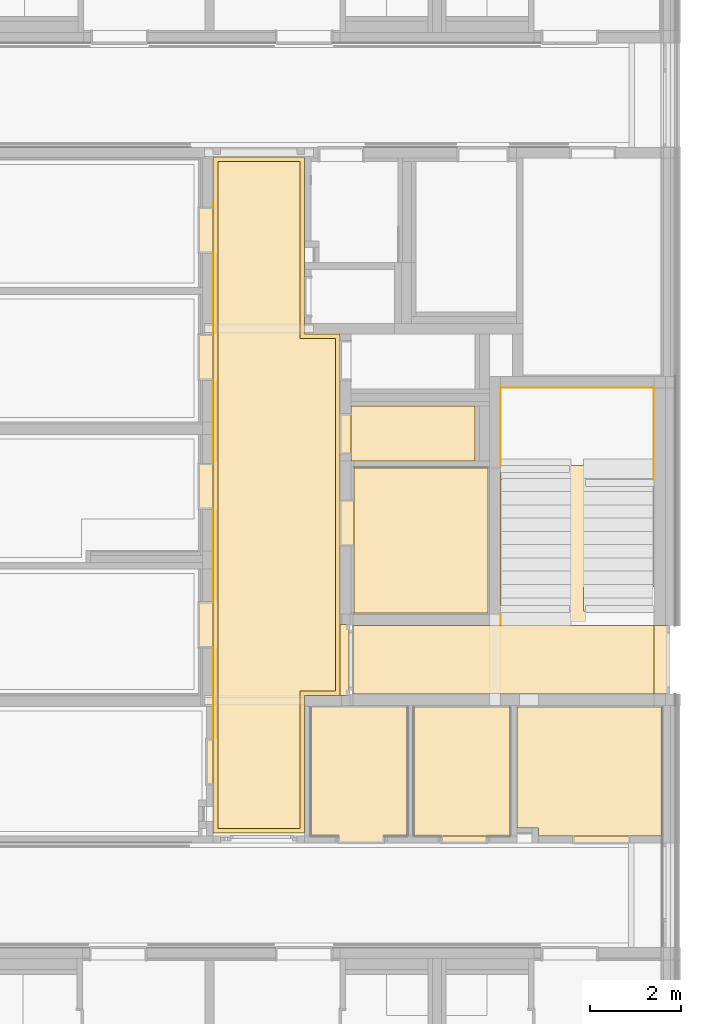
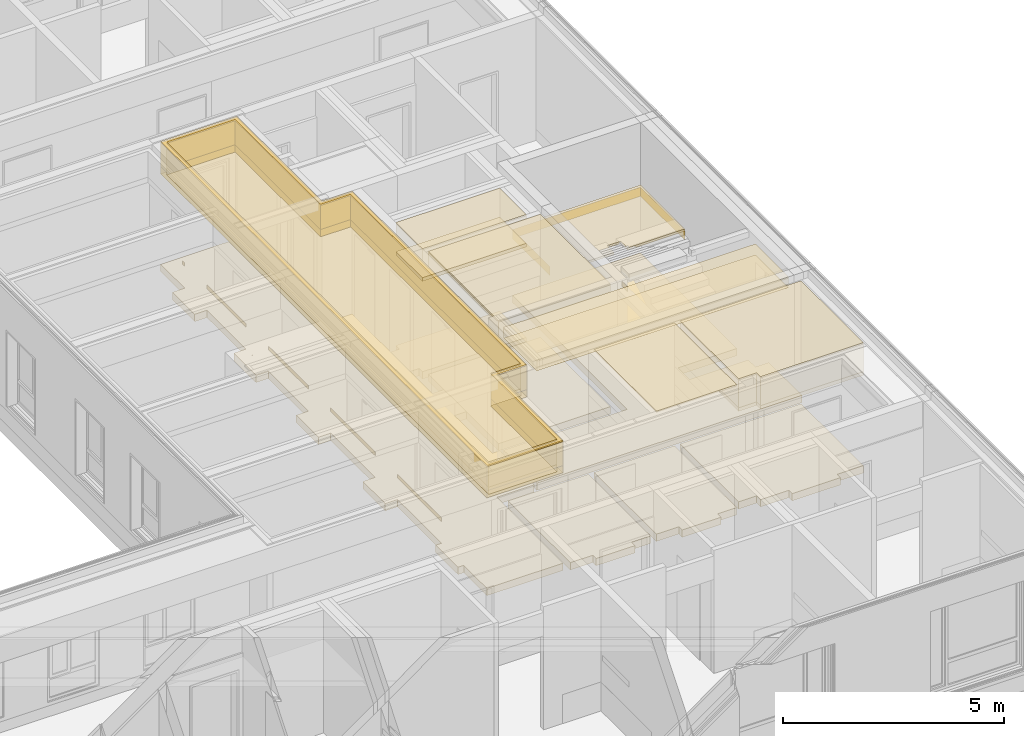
# One storey, part 186 of 207: 33 coverings.
"""IFC4 building model written with IfcOpenShell, lengths in metres."""

import ifcopenshell
import ifcopenshell.guid

model = None  # the IFC model being written
_history = None  # IfcOwnerHistory: only IFC2X3 demands one
_inside = {}  # id of a spatial element -> (the spatial element, [elements in it])
_under = {}  # id of a project, library or spatial element -> (it, [spatial elements below it])
_declared = {}  # id of a project -> (the project, [libraries it declares])
_typed = {}  # id of a type object -> (the type object, [elements of that type])
_made_of = {}  # id of a material, layer set ... -> (it, [elements and type objects made of it])


def new_model(schema):
    """Start an empty IFC model of exactly this schema.

    Asked for "IFC4X3", IfcOpenShell would pick the latest addendum, in which some entities
    have other attributes; the version numbers below select the first issue.
    IFC2X3 requires an IfcOwnerHistory on every rooted entity: one is made here for all.
    """
    global model, _history
    if schema == "IFC4X3":
        model = ifcopenshell.file(schema_version=(4, 3, 0, 0))
    else:
        model = ifcopenshell.file(schema=schema)
    _inside.clear()
    _under.clear()
    _declared.clear()
    _typed.clear()
    _made_of.clear()
    _history = None
    if model.schema == "IFC2X3":
        org = make("IfcOrganization", Name="unknown")
        user = make(
            "IfcPersonAndOrganization",
            ThePerson=make("IfcPerson", FamilyName="unknown"),
            TheOrganization=org,
        )
        app = make(
            "IfcApplication",
            ApplicationDeveloper=org,
            Version="unknown",
            ApplicationFullName="unknown",
            ApplicationIdentifier="unknown",
        )
        _history = make(
            "IfcOwnerHistory",
            OwningUser=user,
            OwningApplication=app,
            ChangeAction="ADDED",
            CreationDate=0,
        )
    return model


def make(cls, **values):
    """One entity of the class cls with the attributes given. An attribute that is None is left unset."""
    return model.create_entity(
        cls, **{name: value for name, value in values.items() if value is not None}
    )


def entity(cls, *values):
    """Any entity or typed value of the class cls, its attributes in the order of the schema. None: left unset."""
    e = model.create_entity(cls)
    for i, value in enumerate(values):
        if value is not None:
            e[i] = value
    return e


def rooted(cls, **values):
    """An entity with a GlobalId (a new one), such as an element, a storey or a relation."""
    return make(cls, GlobalId=ifcopenshell.guid.new(), OwnerHistory=_history, **values)


def si_unit(unit_type, name, prefix=None):
    """IfcSIUnit, for example si_unit("LENGTHUNIT", "METRE", prefix="MILLI")."""
    return make("IfcSIUnit", UnitType=unit_type, Prefix=prefix, Name=name)


def converted_unit(unit_type, name, factor, base, dimensions=None, offset=None):
    """IfcConversionBasedUnit, such as the inch: factor (a typed value) times the base unit."""
    return make(
        "IfcConversionBasedUnit"
        if offset is None
        else "IfcConversionBasedUnitWithOffset",
        ConversionOffset=offset,
        Dimensions=None
        if dimensions is None
        else entity("IfcDimensionalExponents", *dimensions),
        UnitType=unit_type,
        Name=name,
        ConversionFactor=make(
            "IfcMeasureWithUnit", ValueComponent=factor, UnitComponent=base
        ),
    )


def derived_unit(unit_type, elements):
    """IfcDerivedUnit: a product of units, each with its exponent."""
    return make(
        "IfcDerivedUnit",
        Elements=[
            make("IfcDerivedUnitElement", Unit=unit, Exponent=power)
            for unit, power in elements
        ],
        UnitType=unit_type,
    )


def assignment(units):
    """IfcUnitAssignment: the units of a project."""
    return None if units is None else make("IfcUnitAssignment", Units=units)


def point(xyz):
    """IfcCartesianPoint."""
    return None if xyz is None else make("IfcCartesianPoint", Coordinates=xyz)


def direction(xyz):
    """IfcDirection."""
    return None if xyz is None else make("IfcDirection", DirectionRatios=xyz)


def frame(location, z_axis=None, x_axis=None):
    """IfcAxis2Placement3D, a coordinate frame: its origin and axes. An axis left out is left unset."""
    return make(
        "IfcAxis2Placement3D",
        Location=point(location),
        Axis=direction(z_axis),
        RefDirection=direction(x_axis),
    )


def frame_2d(location, x_axis=None):
    """IfcAxis2Placement2D, a coordinate frame in the plane: its origin and x axis."""
    return make(
        "IfcAxis2Placement2D", Location=point(location), RefDirection=direction(x_axis)
    )


def origin():
    """The frame at (0, 0, 0) with its axes left unset."""
    return frame((0.0, 0.0, 0.0))


def origin_with_axes():
    """The frame at (0, 0, 0) with the z axis (0, 0, 1) and the x axis (1, 0, 0) written out."""
    return frame((0.0, 0.0, 0.0), z_axis=(0.0, 0.0, 1.0), x_axis=(1.0, 0.0, 0.0))


def place(relative_to, where):
    """IfcLocalPlacement: puts the frame where relative to a parent placement (None: the world)."""
    return make(
        "IfcLocalPlacement", PlacementRelTo=relative_to, RelativePlacement=where
    )


def context(
    kind, dimensions, precision=None, world=None, true_north=None, identifier=None
):
    """IfcGeometricRepresentationContext, for example the 3D "Model" context."""
    return make(
        "IfcGeometricRepresentationContext",
        ContextIdentifier=identifier,
        ContextType=kind,
        CoordinateSpaceDimension=dimensions,
        Precision=precision,
        WorldCoordinateSystem=world,
        TrueNorth=true_north,
    )


def subcontext(parent, identifier, kind, view, scale=None):
    """IfcGeometricRepresentationSubContext, for example "Body" below "Model"."""
    return make(
        "IfcGeometricRepresentationSubContext",
        ContextIdentifier=identifier,
        ContextType=kind,
        ParentContext=parent,
        TargetScale=scale,
        TargetView=view,
    )


def project(units=None, contexts=None):
    """IfcProject with its units and contexts."""
    return rooted(
        "IfcProject",
        Name="project",
        RepresentationContexts=contexts,
        UnitsInContext=assignment(units),
    )


def spatial(cls, under=None, at=None, **own):
    """A site, building, storey or space (cls), placed at a placement, below another one or the project."""
    s = rooted(cls, ObjectPlacement=at, **own)
    if under is not None:
        _under.setdefault(under.id(), (under, []))[1].append(s)
    return s


def polyline(points):
    """IfcPolyline through the points."""
    return make("IfcPolyline", Points=[point(p) for p in points])


def profile(cls, at=None, kind="AREA", **sizes):
    """A parametric profile (cls). Its sizes go by their IFC names, for example OverallWidth=200.0."""
    return make(cls, ProfileType=kind, Position=at, **sizes)


def rectangle(**sizes):
    """IfcRectangleProfileDef."""
    return profile("IfcRectangleProfileDef", **sizes)


def outline(outer, holes=None, kind="AREA"):
    """IfcArbitraryClosedProfileDef: a profile drawn as a closed curve; with holes, ...WithVoids."""
    if holes is None:
        return make("IfcArbitraryClosedProfileDef", ProfileType=kind, OuterCurve=outer)
    return make(
        "IfcArbitraryProfileDefWithVoids",
        ProfileType=kind,
        OuterCurve=outer,
        InnerCurves=holes,
    )


def extrude(swept, where, along, depth):
    """IfcExtrudedAreaSolid: the profile swept, set in the frame where, extruded along a direction by depth."""
    return make(
        "IfcExtrudedAreaSolid",
        SweptArea=swept,
        Position=where,
        ExtrudedDirection=direction(along),
        Depth=depth,
    )


def shape(context_of_items, identifier, shape_type, items):
    """IfcShapeRepresentation: the items that make up one representation, for example the "Body"."""
    return make(
        "IfcShapeRepresentation",
        ContextOfItems=context_of_items,
        RepresentationIdentifier=identifier,
        RepresentationType=shape_type,
        Items=items,
    )


def material(Name=None, Category=None):
    """IfcMaterial."""
    return make("IfcMaterial", Name=Name, Category=Category)


def layer(
    of_material, thickness, ventilated=None, Name=None, Category=None, Priority=None
):
    """IfcMaterialLayer: one layer of a wall or slab, of a material (None: an air gap)."""
    return make(
        "IfcMaterialLayer",
        Material=of_material,
        LayerThickness=thickness,
        IsVentilated=ventilated,
        Name=Name,
        Category=Category,
        Priority=Priority,
    )


def layer_set(layers, Name=None):
    """IfcMaterialLayerSet."""
    return make("IfcMaterialLayerSet", MaterialLayers=layers, LayerSetName=Name)


def layer_usage(for_layer_set, set_direction, sense, offset, extent=None):
    """IfcMaterialLayerSetUsage: how a layer set lies in its element."""
    return make(
        "IfcMaterialLayerSetUsage",
        ForLayerSet=for_layer_set,
        LayerSetDirection=set_direction,
        DirectionSense=sense,
        OffsetFromReferenceLine=offset,
        ReferenceExtent=extent,
    )


def made_of(thing, what):
    """Note that an element or type object is made of a material, layer set ...; save() writes the relation."""
    if what is not None:
        _made_of.setdefault(what.id(), (what, []))[1].append(thing)
    return thing


def element(
    cls,
    number,
    at=None,
    inside=None,
    cuts=None,
    type_object=None,
    material=None,
    context=None,
    identifier="Body",
    shape_type=None,
    held_by="IfcProductDefinitionShape",
    body=None,
    shapes=None,
    **own,
):
    """One element of the class cls, such as IfcWall. Its Tag is "e" and its number.

    at: its placement. inside: the storey or other place that contains it. cuts: it is an
    opening in that element (IfcRelVoidsElement). A single representation is given by context,
    identifier, shape_type and body (its items); several are given by shapes. held_by: the class
    of the entity that holds the representations. save() writes the other relations.
    """
    e = rooted(cls, Tag="e%d" % number, ObjectPlacement=at, **own)
    if body is not None:
        shapes = [shape(context, identifier, shape_type, body)]
    if shapes is not None:
        e.Representation = make(held_by, Representations=shapes)
    if inside is not None:
        _inside.setdefault(inside.id(), (inside, []))[1].append(e)
    if cuts is not None:
        rooted(
            "IfcRelVoidsElement", RelatingBuildingElement=cuts, RelatedOpeningElement=e
        )
    if type_object is not None:
        _typed.setdefault(type_object.id(), (type_object, []))[1].append(e)
    return made_of(e, material)


def aggregate(whole, parts):
    """IfcRelAggregates: a whole, such as a stair, and the parts it consists of."""
    return rooted("IfcRelAggregates", RelatingObject=whole, RelatedObjects=parts)


def save(model, path):
    """Write the relations noted so far, then the file.

    IfcRelAggregates (storeys below a building ...), IfcRelContainedInSpatialStructure (elements
    in a storey), IfcRelDefinesByType, IfcRelAssociatesMaterial and IfcRelDeclares: one each for
    every whole, place, type object, material and project.
    """
    for whole, parts in _under.values():
        aggregate(whole, parts)
    for where, things in _inside.values():
        rooted(
            "IfcRelContainedInSpatialStructure",
            RelatedElements=things,
            RelatingStructure=where,
        )
    for kind, things in _typed.values():
        rooted("IfcRelDefinesByType", RelatedObjects=things, RelatingType=kind)
    for what, things in _made_of.values():
        rooted("IfcRelAssociatesMaterial", RelatedObjects=things, RelatingMaterial=what)
    for by, libraries in _declared.values():
        rooted("IfcRelDeclares", RelatingContext=by, RelatedDefinitions=libraries)
    model.write(path)


model = new_model("IFC4")

# Units and contexts
model_context = context("Model", 3, precision=1e-05, world=origin())
body_context = subcontext(model_context, "Body", "Model", "MODEL_VIEW")
ifc_project = project(units=[si_unit("LENGTHUNIT", "METRE"), si_unit("AREAUNIT", "SQUARE_METRE"), si_unit("VOLUMEUNIT", "CUBIC_METRE"), si_unit("MASSUNIT", "GRAM", prefix="KILO"), converted_unit("PLANEANGLEUNIT", "DEGREE", entity("IfcPlaneAngleMeasure", 0.0174532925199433), si_unit("PLANEANGLEUNIT", "RADIAN"), dimensions=[0, 0, 0, 0, 0, 0, 0]), derived_unit("THERMALTRANSMITTANCEUNIT", [(si_unit("POWERUNIT", "WATT"), 1), (si_unit("THERMODYNAMICTEMPERATUREUNIT", "KELVIN"), -1), (si_unit("LENGTHUNIT", "METRE"), -2)]), derived_unit("VOLUMETRICFLOWRATEUNIT", [(si_unit("LENGTHUNIT", "METRE"), 3), (converted_unit("TIMEUNIT", "hour", entity("IfcTimeMeasure", 3600.0), si_unit("TIMEUNIT", "SECOND"), dimensions=[0, 0, 1, 0, 0, 0, 0]), -1), (si_unit("LENGTHUNIT", "METRE"), -1)])], contexts=[model_context])

# Site, building, storey, space
site_placement = place(None, origin())
site = spatial("IfcSite", under=ifc_project, at=site_placement, Name="Psychiatrie Neubau Wunstorf", CompositionType="ELEMENT")
building_placement = place(site_placement, origin())
building = spatial("IfcBuilding", under=site, at=building_placement, Name="Neubau H2 Stationsgebäude", CompositionType="ELEMENT")
storey_placement = place(building_placement, frame((0.0, 0.0, -0.2)))
storey = spatial("IfcBuildingStorey", under=building, at=storey_placement, Name="H2 Ebene 0", CompositionType="ELEMENT", Elevation=-0.2)
space_1_placement = place(storey_placement, frame((96.0825000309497, 7.83999989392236, 0.0)))
space_1 = spatial("IfcSpace", under=storey, at=space_1_placement, Name="WUN-H2-E00-F10", CompositionType="ELEMENT")

# Coverings
ifc_material_1 = material(Name="97")
ifc_layer_1 = layer(ifc_material_1, 0.001)
ifc_layer_set_1 = layer_set([ifc_layer_1])
ifc_layer_usage_1 = layer_usage(ifc_layer_set_1, "AXIS3", "POSITIVE", 0.0)
covering_1_placement = place(space_1_placement, frame((0.0, 2.06000010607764, 0.8)))
element("IfcCovering", 1, at=covering_1_placement, inside=space_1, material=ifc_layer_usage_1, Name="Handlauf", PredefinedType="CLADDING", context=body_context, shape_type="SweptSolid", body=[
    extrude(rectangle(XDim=1.81489760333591, YDim=0.1, at=frame_2d((-0.907448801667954, 0.05), x_axis=(-1.0, 0.0))), frame((0.0, 6.02500000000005, 0.1), z_axis=(1.0, -2.40541095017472e-14, 0.0), x_axis=(-2.40541095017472e-14, -1.0, 0.0)), (0.0, 0.0, 1.0), 0.001),
    extrude(rectangle(XDim=0.1, YDim=2.01500000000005, at=frame_2d((1.00750000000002, 0.05), x_axis=(0.0, 1.0))), frame((0.0, 5.01500000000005, 0.1), z_axis=(1.0, -1.80544853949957e-14, -7.27595761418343e-14), x_axis=(-1.80544853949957e-14, -1.0, 0.0)), (0.0, 0.0, 1.0), 0.001),
    extrude(rectangle(XDim=0.1, YDim=0.101533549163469, at=frame_2d((-0.0507667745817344, -0.05), x_axis=(0.0, -1.0))), frame((0.0, 11.628, 0.0), z_axis=(1.0, -1.43321250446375e-13, 0.0), x_axis=(-1.43321250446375e-13, -1.0, 0.0)), (0.0, 0.0, 1.0), 0.001),
    extrude(rectangle(XDim=0.1, YDim=1.76810239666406, at=frame_2d((-0.884051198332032, -0.05), x_axis=(0.0, -1.0))), frame((0.0, 8.84989760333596, 0.0), z_axis=(1.0, -1.64604892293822e-14, 0.0), x_axis=(-1.64604892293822e-14, -1.0, 0.0)), (0.0, 0.0, 1.0), 0.001),
    extrude(rectangle(XDim=0.1, YDim=1.99, at=frame_2d((0.994999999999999, 0.05), x_axis=(0.0, 1.0))), frame((0.0, 1.99, 0.1), z_axis=(1.0, -2.19375606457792e-14, 0.0), x_axis=(-2.19375606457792e-14, -1.0, 0.0)), (0.0, 0.0, 1.0), 0.001),
])
ifc_material_2 = material(Name="Ku1")
ifc_layer_2 = layer(ifc_material_2, 0.2)
ifc_layer_set_2 = layer_set([ifc_layer_2])
ifc_layer_usage_2 = layer_usage(ifc_layer_set_2, "AXIS3", "POSITIVE", 0.0)
covering_2_placement = place(space_1_placement, frame((-0.321500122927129, 0.0, 0.0)))
element("IfcCovering", 2, at=covering_2_placement, inside=space_1, material=ifc_layer_usage_2, Name="PVC Bahnenware Holzoptik", PredefinedType="FLOORING", context=body_context, shape_type="SweptSolid", body=[
    extrude(rectangle(XDim=0.307, YDim=1.01, at=frame_2d((-0.1535, -0.505), x_axis=(-1.0, 0.0))), frame((3.40500009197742, 7.28500143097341, 0.0), z_axis=(0.0, 0.0, 1.0), x_axis=(1.0, 0.0, 0.0)), (0.0, 0.0, 1.0), 0.2),
    extrude(rectangle(XDim=0.3215, YDim=1.01, at=frame_2d((0.16075, 0.505), x_axis=(1.0, 0.0))), frame((0.0, 4.05000010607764, 0.0), z_axis=(0.0, 0.0, 1.0), x_axis=(1.0, 0.0, 0.0)), (0.0, 0.0, 1.0), 0.2),
    extrude(rectangle(XDim=0.15, YDim=1.01, at=frame_2d((0.075, 0.505), x_axis=(1.0, 0.0))), frame((0.171500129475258, 1.05000010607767, 0.0), z_axis=(0.0, 0.0, 1.0), x_axis=(1.0, 0.0, 0.0)), (0.0, 0.0, 1.0), 0.2),
    extrude(rectangle(XDim=1.01, YDim=0.321499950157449, at=frame_2d((-0.160749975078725, 0.505), x_axis=(0.0, 1.0))), frame((0.321500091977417, 9.8998977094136, 0.0), z_axis=(0.0, 0.0, 1.0), x_axis=(1.0, 0.0, 0.0)), (0.0, 0.0, 1.0), 0.2),
    extrude(rectangle(XDim=1.01, YDim=0.321499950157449, at=frame_2d((-0.160749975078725, 0.505), x_axis=(0.0, 1.0))), frame((0.321500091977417, 12.6780001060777, 0.0), z_axis=(0.0, 0.0, 1.0), x_axis=(1.0, 0.0, 0.0)), (0.0, 0.0, 1.0), 0.2),
    extrude(rectangle(XDim=0.321499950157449, YDim=1.01, at=frame_2d((0.160749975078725, 0.505), x_axis=(1.0, 0.0))), frame((1.41819968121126e-07, 7.07500010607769, 0.0), z_axis=(0.0, 0.0, 1.0), x_axis=(1.0, 0.0, 0.0)), (0.0, 0.0, 1.0), 0.2),
    extrude(rectangle(XDim=0.194999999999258, YDim=1.56, at=frame_2d((-0.0974999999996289, -0.78), x_axis=(-1.0, 0.0))), frame((3.29299235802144, 4.565, 0.0), z_axis=(0.0, 0.0, 1.0), x_axis=(1.0, 0.0, 0.0)), (0.0, 0.0, 1.0), 0.2),
    extrude(outline(polyline([(2.77649996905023, 3.00249859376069), (2.77649996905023, 10.9140041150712), (1.99249996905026, 10.9140041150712), (1.9925000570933, 14.7810044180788), (7.91896191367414e-06, 14.7810044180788), (0.0, 0.0), (1.99249996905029, 0.0), (1.99249996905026, 3.00249859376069), (2.77649996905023, 3.00249859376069)])), frame((0.321500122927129, 0.0, 0.0), z_axis=(0.0, 0.0, 1.0), x_axis=(1.0, 0.0, 0.0)), (0.0, 0.0, 1.0), 0.2),
])
ifc_material_3 = material()
ifc_layer_3 = layer(ifc_material_3, 0.036)
ifc_layer_set_3 = layer_set([ifc_layer_3])
ifc_layer_usage_3 = layer_usage(ifc_layer_set_3, "AXIS3", "POSITIVE", 0.0)
covering_3_placement = place(space_1_placement, frame((0.0, 0.0, 3.6)))
element("IfcCovering", 3, at=covering_3_placement, inside=space_1, material=ifc_layer_usage_3, Name="Gipsfaserplatten 2-lagig (BSK)", PredefinedType="CEILING", context=body_context, shape_type="SweptSolid", body=[
    extrude(outline(polyline([(2.77649996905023, 3.8670003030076), (2.77649996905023, 11.7785058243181), (1.99249996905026, 11.7785058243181), (1.99249996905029, 14.7810044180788), (0.0, 14.7810044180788), (7.91896191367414e-06, 0.0), (1.9925000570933, 0.0), (1.99249996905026, 3.8670003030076), (2.77649996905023, 3.8670003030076)]), holes=[polyline([(1.89250011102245, 0.1), (0.100007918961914, 0.1), (0.10000000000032, 14.6810044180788), (1.89249238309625, 14.6810044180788), (1.89249996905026, 11.6785058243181), (2.67649223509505, 11.6785058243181), (2.67649996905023, 3.9670003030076), (1.89249996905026, 3.9670003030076), (1.89250011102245, 0.1)])]), frame((0.0, 14.7810044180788, 0.0), z_axis=(0.0, 0.0, -1.0), x_axis=(1.0, 0.0, 0.0)), (0.0, 0.0, 1.0), 0.036),
])
ifc_material_4 = material(Name="Installationshöhe")
ifc_layer_4 = layer(ifc_material_4, 0.664)
ifc_layer_set_4 = layer_set([ifc_layer_4])
ifc_layer_usage_4 = layer_usage(ifc_layer_set_4, "AXIS3", "POSITIVE", 0.0)
covering_4_placement = place(space_1_placement, frame((0.0, 0.0, 3.564)))
element("IfcCovering", 4, at=covering_4_placement, inside=space_1, material=ifc_layer_usage_4, Name="Gipsfaserplatten 2-lagig (BSK)", PredefinedType="CEILING", context=body_context, shape_type="SweptSolid", body=[
    extrude(outline(polyline([(2.77649996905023, 3.8670003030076), (2.77649996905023, 11.7785058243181), (1.99249996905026, 11.7785058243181), (1.99249996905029, 14.7810044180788), (0.0, 14.7810044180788), (7.91896191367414e-06, 0.0), (1.9925000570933, 0.0), (1.99249996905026, 3.8670003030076), (2.77649996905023, 3.8670003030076)]), holes=[polyline([(1.89250011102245, 0.1), (0.100007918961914, 0.1), (0.10000000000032, 14.6810044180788), (1.89249238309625, 14.6810044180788), (1.89249996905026, 11.6785058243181), (2.67649223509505, 11.6785058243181), (2.67649996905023, 3.9670003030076), (1.89249996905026, 3.9670003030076), (1.89250011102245, 0.1)])]), frame((0.0, 14.7810044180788, 0.0), z_axis=(0.0, 0.0, -1.0), x_axis=(1.0, 0.0, 0.0)), (0.0, 0.0, 1.0), 0.664),
])
ifc_material_5 = material(Name="A1")
ifc_layer_5 = layer(ifc_material_5, 0.2)
ifc_layer_set_5 = layer_set([ifc_layer_5])
ifc_layer_usage_5 = layer_usage(ifc_layer_set_5, "AXIS3", "POSITIVE", 0.0)
covering_5_placement = place(space_1_placement, frame((0.0, 0.0, 2.9)))
element("IfcCovering", 5, at=covering_5_placement, inside=space_1, material=ifc_layer_usage_5, Name="Gipsfaserplatten 2-lagig (BSK)", PredefinedType="CEILING", context=body_context, shape_type="SweptSolid", body=[
    extrude(outline(polyline([(2.77649996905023, 3.8670003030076), (2.77649996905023, 11.7785058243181), (1.99249996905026, 11.7785058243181), (1.99249996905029, 14.7810044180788), (0.0, 14.7810044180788), (7.91896191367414e-06, 0.0), (1.9925000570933, 0.0), (1.99249996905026, 3.8670003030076), (2.77649996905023, 3.8670003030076)]), holes=[polyline([(1.89250011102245, 0.1), (0.100007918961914, 0.1), (0.10000000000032, 14.6810044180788), (1.89249238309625, 14.6810044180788), (1.89249996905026, 11.6785058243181), (2.67649223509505, 11.6785058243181), (2.67649996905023, 3.9670003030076), (1.89249996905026, 3.9670003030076), (1.89250011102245, 0.1)])]), frame((0.0, 14.7810044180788, 0.0), z_axis=(0.0, 0.0, -1.0), x_axis=(1.0, 0.0, 0.0)), (0.0, 0.0, 1.0), 0.2),
])
ifc_material_6 = material(Name="D1")
ifc_layer_6 = layer(ifc_material_6, 0.001)
ifc_layer_set_6 = layer_set([ifc_layer_6])
ifc_layer_usage_6 = layer_usage(ifc_layer_set_6, "AXIS3", "POSITIVE", 0.0)
covering_6_placement = place(space_1_placement, frame((0.0, 0.0, 2.7)))
element("IfcCovering", 6, at=covering_6_placement, inside=space_1, material=ifc_layer_usage_6, Name="Gipsfaserplatten 2-lagig (BSK)", PredefinedType="CEILING", context=body_context, shape_type="SweptSolid", body=[
    extrude(outline(polyline([(2.77649996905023, 3.8670003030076), (2.77649996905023, 11.7785058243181), (1.99249996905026, 11.7785058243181), (1.99249996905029, 14.7810044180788), (0.0, 14.7810044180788), (7.91896191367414e-06, 0.0), (1.9925000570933, 0.0), (1.99249996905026, 3.8670003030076), (2.77649996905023, 3.8670003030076)]), holes=[polyline([(1.89250011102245, 0.1), (0.100007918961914, 0.1), (0.10000000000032, 14.6810044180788), (1.89249238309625, 14.6810044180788), (1.89249996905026, 11.6785058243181), (2.67649223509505, 11.6785058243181), (2.67649996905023, 3.9670003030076), (1.89249996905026, 3.9670003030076), (1.89250011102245, 0.1)])]), frame((0.0, 14.7810044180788, 0.0), z_axis=(0.0, 0.0, -1.0), x_axis=(1.0, 0.0, 0.0)), (0.0, 0.0, 1.0), 0.001),
])
ifc_material_7 = material()
ifc_layer_7 = layer(ifc_material_7, 0.036)
ifc_layer_set_7 = layer_set([ifc_layer_7])
ifc_layer_usage_7 = layer_usage(ifc_layer_set_7, "AXIS3", "POSITIVE", 0.0)
covering_7_placement = place(space_1_placement, frame((0.10000000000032, 0.1, 3.6)))
element("IfcCovering", 7, at=covering_7_placement, inside=space_1, material=ifc_layer_usage_7, Name="Gipsfaserplatten 2-lagig (BSK)", PredefinedType="CEILING", context=body_context, shape_type="SweptSolid", body=[
    extrude(outline(polyline([(7.918961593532e-06, 0.0), (1.79250011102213, 0.0), (1.79249996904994, 3.8670003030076), (2.57649996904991, 3.8670003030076), (2.57649223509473, 11.5785058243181), (1.79249996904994, 11.5785058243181), (1.79249238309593, 14.5810044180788), (0.0, 14.5810044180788), (7.918961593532e-06, 0.0)])), frame((0.0, 14.5810044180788, 0.0), z_axis=(0.0, 0.0, -1.0), x_axis=(1.0, 0.0, 0.0)), (0.0, 0.0, 1.0), 0.036),
])
ifc_material_8 = material(Name="Installationshöhe")
ifc_layer_8 = layer(ifc_material_8, 0.664)
ifc_layer_set_8 = layer_set([ifc_layer_8])
ifc_layer_usage_8 = layer_usage(ifc_layer_set_8, "AXIS3", "POSITIVE", 0.0)
covering_8_placement = place(space_1_placement, frame((0.10000000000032, 0.1, 3.564)))
element("IfcCovering", 8, at=covering_8_placement, inside=space_1, material=ifc_layer_usage_8, Name="Gipsfaserplatten 2-lagig (BSK)", PredefinedType="CEILING", context=body_context, shape_type="SweptSolid", body=[
    extrude(outline(polyline([(7.918961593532e-06, 0.0), (1.79250011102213, 0.0), (1.79249996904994, 3.8670003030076), (2.57649996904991, 3.8670003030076), (2.57649223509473, 11.5785058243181), (1.79249996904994, 11.5785058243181), (1.79249238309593, 14.5810044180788), (0.0, 14.5810044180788), (7.918961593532e-06, 0.0)])), frame((0.0, 14.5810044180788, 0.0), z_axis=(0.0, 0.0, -1.0), x_axis=(1.0, 0.0, 0.0)), (0.0, 0.0, 1.0), 0.664),
])
ifc_material_9 = material(Name="Aa")
ifc_layer_9 = layer(ifc_material_9, 0.2)
ifc_layer_set_9 = layer_set([ifc_layer_9])
ifc_layer_usage_9 = layer_usage(ifc_layer_set_9, "AXIS3", "POSITIVE", 0.0)
covering_9_placement = place(space_1_placement, frame((0.10000000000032, 0.1, 2.9)))
element("IfcCovering", 9, at=covering_9_placement, inside=space_1, material=ifc_layer_usage_9, Name="Gipsfaserplatten 2-lagig (BSK)", PredefinedType="CEILING", context=body_context, shape_type="SweptSolid", body=[
    extrude(outline(polyline([(7.918961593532e-06, 0.0), (1.79250011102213, 0.0), (1.79249996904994, 3.8670003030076), (2.57649996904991, 3.8670003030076), (2.57649223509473, 11.5785058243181), (1.79249996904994, 11.5785058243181), (1.79249238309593, 14.5810044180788), (0.0, 14.5810044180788), (7.918961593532e-06, 0.0)])), frame((0.0, 14.5810044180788, 0.0), z_axis=(0.0, 0.0, -1.0), x_axis=(1.0, 0.0, 0.0)), (0.0, 0.0, 1.0), 0.2),
])
ifc_material_10 = material(Name="D1")
ifc_layer_10 = layer(ifc_material_10, 0.001)
ifc_layer_set_10 = layer_set([ifc_layer_10])
ifc_layer_usage_10 = layer_usage(ifc_layer_set_10, "AXIS3", "POSITIVE", 0.0)
covering_10_placement = place(space_1_placement, frame((0.10000000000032, 0.1, 2.7)))
element("IfcCovering", 10, at=covering_10_placement, inside=space_1, material=ifc_layer_usage_10, Name="Gipsfaserplatten 2-lagig (BSK)", PredefinedType="CEILING", context=body_context, shape_type="SweptSolid", body=[
    extrude(outline(polyline([(7.918961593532e-06, 0.0), (1.79250011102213, 0.0), (1.79249996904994, 3.8670003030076), (2.57649996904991, 3.8670003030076), (2.57649223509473, 11.5785058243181), (1.79249996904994, 11.5785058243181), (1.79249238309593, 14.5810044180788), (0.0, 14.5810044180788), (7.918961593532e-06, 0.0)])), frame((0.0, 14.5810044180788, 0.0), z_axis=(0.0, 0.0, -1.0), x_axis=(1.0, 0.0, 0.0)), (0.0, 0.0, 1.0), 0.001),
])

# Space
space_2_placement = place(storey_placement, frame((99.139, 10.8749999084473, 0.0)))
space_2 = spatial("IfcSpace", under=storey, at=space_2_placement, Name="WUN-H2-E00-T04", CompositionType="ELEMENT")

# Coverings
ifc_material_11 = material(Name="Fl12")
ifc_layer_11 = layer(ifc_material_11, 0.06)
ifc_layer_set_11 = layer_set([ifc_layer_11])
ifc_layer_usage_11 = layer_usage(ifc_layer_set_11, "AXIS3", "POSITIVE", 0.0)
covering_11_placement = place(space_2_placement, frame((3.231, 4.69172159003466, 2.015)))
element("IfcCovering", 11, at=covering_11_placement, inside=space_2, material=ifc_layer_usage_11, PredefinedType="FLOORING", context=body_context, shape_type="SweptSolid", body=[
    extrude(outline(polyline([(3.35, 0.0), (3.35, 2.00827850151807), (0.0, 2.00827850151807), (0.0, 0.0), (1.5, 0.0), (1.5, 0.308278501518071), (1.85, 0.308278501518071), (1.85, 0.0), (3.35, 0.0)])), origin_with_axes(), (0.0, 0.0, 1.0), 0.06),
])
ifc_material_12 = material(Name="Fl12")
ifc_layer_12 = layer(ifc_material_12, 0.2)
ifc_layer_set_12 = layer_set([ifc_layer_12])
ifc_layer_usage_12 = layer_usage(ifc_layer_set_12, "AXIS3", "POSITIVE", 0.0)
covering_12_placement = place(space_2_placement, frame((0.0, -1.45230296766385e-08, 0.0)))
element("IfcCovering", 12, at=covering_12_placement, inside=space_2, material=ifc_layer_usage_12, Name="Fliesen Großformat", PredefinedType="FLOORING", context=body_context, shape_type="SweptSolid", body=[
    extrude(rectangle(XDim=0.35100000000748, YDim=1.5000257, at=frame_2d((0.17550000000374, 0.750012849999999), x_axis=(1.0, 0.0))), frame((6.58099999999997, 0.0, 0.0), z_axis=(0.0, 0.0, 1.0), x_axis=(1.0, 0.0, 0.0)), (0.0, 0.0, 1.0), 0.2),
    extrude(outline(polyline([(5.04100000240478, 2.33994103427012), (6.581, 2.33994103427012), (6.581, 6.70000010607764), (3.231, 6.70000010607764), (3.231, 1.50000001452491), (0.0, 1.50000001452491), (0.0, 0.0), (6.581, 1.4524906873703e-08), (6.581, 1.81860038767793), (5.04100000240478, 1.81860038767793), (5.04100000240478, 2.33994103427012)])), origin_with_axes(), (0.0, 0.0, 1.0), 0.2),
])
ifc_material_13 = material(Name="03")
ifc_layer_13 = layer(ifc_material_13, 0.001)
ifc_layer_set_13 = layer_set([ifc_layer_13])
ifc_layer_usage_13 = layer_usage(ifc_layer_set_13, "AXIS3", "POSITIVE", 0.0)
covering_13_placement = place(space_2_placement, frame((3.231, 1.5, 1.7655)))
element("IfcCovering", 13, at=covering_13_placement, inside=space_2, material=ifc_layer_usage_13, Name="Sichtbetonklasse SB3", PredefinedType="CLADDING", context=body_context, shape_type="SweptSolid", body=[
    extrude(rectangle(XDim=0.25, YDim=2.00826961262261, at=frame_2d((-1.0041348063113, -0.125), x_axis=(0.0, -1.0))), frame((3.35, 5.20000009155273, 0.0), z_axis=(-1.0, 5.19393052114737e-11, 0.0), x_axis=(5.19393052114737e-11, 1.0, 0.0)), (0.0, 0.0, 1.0), 0.001),
    extrude(rectangle(XDim=0.25, YDim=3.35, at=frame_2d((1.675, 0.125), x_axis=(0.0, 1.0))), frame((3.35, 5.20000009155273, 0.25), z_axis=(0.0, -1.0, 0.0), x_axis=(-1.0, 0.0, 0.0)), (0.0, 0.0, 1.0), 0.001),
    extrude(rectangle(XDim=0.15, YDim=0.249999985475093, at=frame_2d((-0.124999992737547, -0.075), x_axis=(0.0, -1.0))), frame((0.0, 0.0, 1.6845), z_axis=(1.0, 0.0, 0.0), x_axis=(0.0, -1.0, 0.0)), (0.0, 0.0, 1.0), 0.001),
    extrude(rectangle(XDim=0.25, YDim=1.70000610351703, at=frame_2d((0.850003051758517, 0.125), x_axis=(0.0, 1.0))), frame((0.0, 5.20000009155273, 0.25), z_axis=(1.0, 0.0, 0.0), x_axis=(0.0, -1.0, 0.0)), (0.0, 0.0, 1.0), 0.001),
])
ifc_material_14 = material()
ifc_layer_14 = layer(ifc_material_14, 0.036)
ifc_layer_set_14 = layer_set([ifc_layer_14])
ifc_layer_usage_14 = layer_usage(ifc_layer_set_14, "AXIS3", "POSITIVE", 0.0)
covering_14_placement = place(space_2_placement, frame((0.0, 0.0, 3.6)))
element("IfcCovering", 14, at=covering_14_placement, inside=space_2, material=ifc_layer_usage_14, Name="Gipsfaserplatten 2-lagig (BSK)", PredefinedType="CEILING", context=body_context, shape_type="SweptSolid", body=[
    extrude(rectangle(XDim=1.5, YDim=6.581, at=frame_2d((3.2905, -0.75), x_axis=(0.0, -1.0))), frame((0.0, 0.0, 0.0), z_axis=(0.0, 0.0, -1.0), x_axis=(1.0, 0.0, 0.0)), (0.0, 0.0, 1.0), 0.036),
])
ifc_material_15 = material(Name="Installationshöhe")
ifc_layer_15 = layer(ifc_material_15, 0.164)
ifc_layer_set_15 = layer_set([ifc_layer_15])
ifc_layer_usage_15 = layer_usage(ifc_layer_set_15, "AXIS3", "POSITIVE", 0.0)
covering_15_placement = place(space_2_placement, frame((0.0, 0.0, 3.564)))
element("IfcCovering", 15, at=covering_15_placement, inside=space_2, material=ifc_layer_usage_15, Name="Gipsfaserplatten 2-lagig (BSK)", PredefinedType="CEILING", context=body_context, shape_type="SweptSolid", body=[
    extrude(rectangle(XDim=1.5, YDim=6.581, at=frame_2d((3.2905, -0.75), x_axis=(0.0, -1.0))), frame((0.0, 0.0, 0.0), z_axis=(0.0, 0.0, -1.0), x_axis=(1.0, 0.0, 0.0)), (0.0, 0.0, 1.0), 0.164),
])
ifc_material_16 = material(Name="A1")
ifc_layer_16 = layer(ifc_material_16, 0.1)
ifc_layer_set_16 = layer_set([ifc_layer_16])
ifc_layer_usage_16 = layer_usage(ifc_layer_set_16, "AXIS3", "POSITIVE", 0.0)
covering_16_placement = place(space_2_placement, frame((0.0, 0.0, 3.4)))
element("IfcCovering", 16, at=covering_16_placement, inside=space_2, material=ifc_layer_usage_16, Name="Gipsfaserplatten 2-lagig (BSK)", PredefinedType="CEILING", context=body_context, shape_type="SweptSolid", body=[
    extrude(rectangle(XDim=1.5, YDim=6.581, at=frame_2d((3.2905, -0.75), x_axis=(0.0, -1.0))), frame((0.0, 0.0, 0.0), z_axis=(0.0, 0.0, -1.0), x_axis=(1.0, 0.0, 0.0)), (0.0, 0.0, 1.0), 0.1),
])
ifc_material_17 = material(Name="D1")
ifc_layer_17 = layer(ifc_material_17, 0.001)
ifc_layer_set_17 = layer_set([ifc_layer_17])
ifc_layer_usage_17 = layer_usage(ifc_layer_set_17, "AXIS3", "POSITIVE", 0.0)
covering_17_placement = place(space_2_placement, frame((0.0, 0.0, 3.3)))
element("IfcCovering", 17, at=covering_17_placement, inside=space_2, material=ifc_layer_usage_17, Name="Gipsfaserplatten 2-lagig (BSK)", PredefinedType="CEILING", context=body_context, shape_type="SweptSolid", body=[
    extrude(rectangle(XDim=1.5, YDim=6.581, at=frame_2d((3.2905, -0.75), x_axis=(0.0, -1.0))), frame((0.0, 0.0, 0.0), z_axis=(0.0, 0.0, -1.0), x_axis=(1.0, 0.0, 0.0)), (0.0, 0.0, 1.0), 0.001),
])

# Space
space_3_placement = place(storey_placement, frame((99.0909999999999, 15.9749998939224, 0.0)))
space_3 = spatial("IfcSpace", under=storey, at=space_3_placement, Name="WUN-H2-E00-080", CompositionType="ELEMENT")

# Coverings
ifc_material_18 = material()
ifc_layer_18 = layer(ifc_material_18, 0.036)
ifc_layer_set_18 = layer_set([ifc_layer_18])
ifc_layer_usage_18 = layer_usage(ifc_layer_set_18, "AXIS3", "POSITIVE", 0.0)
covering_18_placement = place(space_3_placement, frame((0.0, 0.0, 3.6)))
element("IfcCovering", 18, at=covering_18_placement, inside=space_3, material=ifc_layer_usage_18, Name="Gipsfaserplatten 2-lagig (BSK)", PredefinedType="CEILING", context=body_context, shape_type="SweptSolid", body=[
    extrude(rectangle(XDim=2.71900000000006, YDim=1.20200277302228, at=frame_2d((-1.35950000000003, -0.60100138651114), x_axis=(-1.0, 0.0))), frame((2.71900000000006, 0.0, 0.0), z_axis=(0.0, 0.0, -1.0), x_axis=(1.0, 0.0, 0.0)), (0.0, 0.0, 1.0), 0.036),
])
ifc_material_19 = material(Name="Installationshöhe")
ifc_layer_19 = layer(ifc_material_19, 0.764)
ifc_layer_set_19 = layer_set([ifc_layer_19])
ifc_layer_usage_19 = layer_usage(ifc_layer_set_19, "AXIS3", "POSITIVE", 0.0)
covering_19_placement = place(space_3_placement, frame((0.0, 0.0, 3.564)))
element("IfcCovering", 19, at=covering_19_placement, inside=space_3, material=ifc_layer_usage_19, Name="Gipsfaserplatten 2-lagig (BSK)", PredefinedType="CEILING", context=body_context, shape_type="SweptSolid", body=[
    extrude(rectangle(XDim=2.71900000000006, YDim=1.20200277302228, at=frame_2d((-1.35950000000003, -0.60100138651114), x_axis=(-1.0, 0.0))), frame((2.71900000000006, 0.0, 0.0), z_axis=(0.0, 0.0, -1.0), x_axis=(1.0, 0.0, 0.0)), (0.0, 0.0, 1.0), 0.764),
])
ifc_material_20 = material(Name="E3")
ifc_layer_20 = layer(ifc_material_20, 0.1)
ifc_layer_set_20 = layer_set([ifc_layer_20])
ifc_layer_usage_20 = layer_usage(ifc_layer_set_20, "AXIS3", "POSITIVE", 0.0)
covering_20_placement = place(space_3_placement, frame((0.0, 0.0, 2.8)))
element("IfcCovering", 20, at=covering_20_placement, inside=space_3, material=ifc_layer_usage_20, Name="Rasterdecke", PredefinedType="CEILING", context=body_context, shape_type="SweptSolid", body=[
    extrude(rectangle(XDim=2.71900000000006, YDim=1.20200277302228, at=frame_2d((-1.35950000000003, -0.60100138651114), x_axis=(-1.0, 0.0))), frame((2.71900000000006, 0.0, 0.0), z_axis=(0.0, 0.0, -1.0), x_axis=(1.0, 0.0, 0.0)), (0.0, 0.0, 1.0), 0.1),
])
ifc_material_21 = material(Name="Fl1")
ifc_layer_21 = layer(ifc_material_21, 0.2)
ifc_layer_set_21 = layer_set([ifc_layer_21])
ifc_layer_usage_21 = layer_usage(ifc_layer_set_21, "AXIS3", "POSITIVE", 0.0)
covering_21_placement = place(space_3_placement, frame((-0.231999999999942, 0.0, 0.0)))
element("IfcCovering", 21, at=covering_21_placement, inside=space_3, material=ifc_layer_usage_21, Name="Fliesen", PredefinedType="FLOORING", context=body_context, shape_type="SweptSolid", body=[
    extrude(rectangle(XDim=0.232, YDim=0.885, at=frame_2d((-0.116, -0.4425), x_axis=(-1.0, 0.0))), frame((0.232, 1.03500143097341, 0.0), z_axis=(0.0, 0.0, 1.0), x_axis=(1.0, 0.0, 0.0)), (0.0, 0.0, 1.0), 0.2),
    extrude(rectangle(XDim=2.71900000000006, YDim=1.20200277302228, at=frame_2d((1.35950000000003, 0.60100138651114), x_axis=(1.0, 0.0))), frame((0.231999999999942, 0.0, 0.0), z_axis=(0.0, 0.0, 1.0), x_axis=(1.0, 0.0, 0.0)), (0.0, 0.0, 1.0), 0.2),
])

# Space
space_4_placement = place(storey_placement, frame((99.166, 12.655000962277, 0.0)))
space_4 = spatial("IfcSpace", under=storey, at=space_4_placement, Name="WUN-H2-E00-081", CompositionType="ELEMENT")

# Coverings
ifc_material_22 = material()
ifc_layer_22 = layer(ifc_material_22, 0.036)
ifc_layer_set_22 = layer_set([ifc_layer_22])
ifc_layer_usage_22 = layer_usage(ifc_layer_set_22, "AXIS3", "POSITIVE", 0.0)
covering_22_placement = place(space_4_placement, frame((0.0, 0.0, 3.6)))
element("IfcCovering", 22, at=covering_22_placement, inside=space_4, material=ifc_layer_usage_22, Name="Gipsfaserplatten 2-lagig (BSK)", PredefinedType="CEILING", context=body_context, shape_type="SweptSolid", body=[
    extrude(rectangle(XDim=2.92400036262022, YDim=3.16999894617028, at=frame_2d((-1.46200018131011, -1.58499947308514), x_axis=(-1.0, 0.0))), frame((2.92400036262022, 0.0, 0.0), z_axis=(0.0, 0.0, -1.0), x_axis=(1.0, 0.0, 0.0)), (0.0, 0.0, 1.0), 0.036),
])
ifc_material_23 = material(Name="Installationshöhe")
ifc_layer_23 = layer(ifc_material_23, 0.764)
ifc_layer_set_23 = layer_set([ifc_layer_23])
ifc_layer_usage_23 = layer_usage(ifc_layer_set_23, "AXIS3", "POSITIVE", 0.0)
covering_23_placement = place(space_4_placement, frame((0.0, 0.0, 3.564)))
element("IfcCovering", 23, at=covering_23_placement, inside=space_4, material=ifc_layer_usage_23, Name="Gipsfaserplatten 2-lagig (BSK)", PredefinedType="CEILING", context=body_context, shape_type="SweptSolid", body=[
    extrude(rectangle(XDim=2.92400036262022, YDim=3.16999894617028, at=frame_2d((-1.46200018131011, -1.58499947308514), x_axis=(-1.0, 0.0))), frame((2.92400036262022, 0.0, 0.0), z_axis=(0.0, 0.0, -1.0), x_axis=(1.0, 0.0, 0.0)), (0.0, 0.0, 1.0), 0.764),
])
ifc_material_24 = material(Name="E3")
ifc_layer_24 = layer(ifc_material_24, 0.1)
ifc_layer_set_24 = layer_set([ifc_layer_24])
ifc_layer_usage_24 = layer_usage(ifc_layer_set_24, "AXIS3", "POSITIVE", 0.0)
covering_24_placement = place(space_4_placement, frame((0.0, 0.0, 2.8)))
element("IfcCovering", 24, at=covering_24_placement, inside=space_4, material=ifc_layer_usage_24, Name="Rasterdecke", PredefinedType="CEILING", context=body_context, shape_type="SweptSolid", body=[
    extrude(rectangle(XDim=2.92400036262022, YDim=3.16999894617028, at=frame_2d((-1.46200018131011, -1.58499947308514), x_axis=(-1.0, 0.0))), frame((2.92400036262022, 0.0, 0.0), z_axis=(0.0, 0.0, -1.0), x_axis=(1.0, 0.0, 0.0)), (0.0, 0.0, 1.0), 0.1),
])
ifc_material_25 = material(Name="Ku2")
ifc_layer_25 = layer(ifc_material_25, 0.2)
ifc_layer_set_25 = layer_set([ifc_layer_25])
ifc_layer_usage_25 = layer_usage(ifc_layer_set_25, "AXIS3", "POSITIVE", 0.0)
covering_25_placement = place(space_4_placement, origin())
element("IfcCovering", 25, at=covering_25_placement, inside=space_4, material=ifc_layer_usage_25, Name="PVC Bahnenware Uni", PredefinedType="FLOORING", context=body_context, shape_type="SweptSolid", body=[
    extrude(rectangle(XDim=2.92400036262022, YDim=3.16999894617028, at=frame_2d((1.46200018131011, 1.58499947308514), x_axis=(1.0, 0.0))), origin_with_axes(), (0.0, 0.0, 1.0), 0.2),
])

# Space
space_5_placement = place(storey_placement, frame((102.725, 7.77499990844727, 0.0)))
space_5 = spatial("IfcSpace", under=storey, at=space_5_placement, Name="WUN-H2-E00-089", CompositionType="ELEMENT")

# Coverings
ifc_material_26 = material()
ifc_layer_26 = layer(ifc_material_26, 0.036)
ifc_layer_set_26 = layer_set([ifc_layer_26])
ifc_layer_usage_26 = layer_usage(ifc_layer_set_26, "AXIS3", "POSITIVE", 0.0)
covering_26_placement = place(space_5_placement, frame((0.0, 0.0, 3.6)))
element("IfcCovering", 26, at=covering_26_placement, inside=space_5, material=ifc_layer_usage_26, Name="Gipsfaserplatten 2-lagig (BSK)", PredefinedType="CEILING", context=body_context, shape_type="SweptSolid", body=[
    extrude(outline(polyline([(0.475, 2.82000034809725), (0.475, 2.64500036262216), (0.0, 2.64500036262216), (0.0, 0.0), (3.16399999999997, 0.0), (3.16399999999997, 2.82000034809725), (0.475, 2.82000034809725)])), frame((0.0, 2.82000034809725, 0.0), z_axis=(0.0, 0.0, -1.0), x_axis=(1.0, 0.0, 0.0)), (0.0, 0.0, 1.0), 0.036),
])
ifc_material_27 = material(Name="Installationshöhe")
ifc_layer_27 = layer(ifc_material_27, 0.764)
ifc_layer_set_27 = layer_set([ifc_layer_27])
ifc_layer_usage_27 = layer_usage(ifc_layer_set_27, "AXIS3", "POSITIVE", 0.0)
covering_27_placement = place(space_5_placement, frame((0.0, 0.0, 3.564)))
element("IfcCovering", 27, at=covering_27_placement, inside=space_5, material=ifc_layer_usage_27, Name="Gipsfaserplatten 2-lagig (BSK)", PredefinedType="CEILING", context=body_context, shape_type="SweptSolid", body=[
    extrude(outline(polyline([(0.475, 2.82000034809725), (0.475, 2.64500036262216), (0.0, 2.64500036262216), (0.0, 0.0), (3.16399999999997, 0.0), (3.16399999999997, 2.82000034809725), (0.475, 2.82000034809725)])), frame((0.0, 2.82000034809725, 0.0), z_axis=(0.0, 0.0, -1.0), x_axis=(1.0, 0.0, 0.0)), (0.0, 0.0, 1.0), 0.764),
])
ifc_material_28 = material(Name="E3")
ifc_layer_28 = layer(ifc_material_28, 0.1)
ifc_layer_set_28 = layer_set([ifc_layer_28])
ifc_layer_usage_28 = layer_usage(ifc_layer_set_28, "AXIS3", "POSITIVE", 0.0)
covering_28_placement = place(space_5_placement, frame((0.0, 0.0, 2.8)))
element("IfcCovering", 28, at=covering_28_placement, inside=space_5, material=ifc_layer_usage_28, Name="Rasterdecke", PredefinedType="CEILING", context=body_context, shape_type="SweptSolid", body=[
    extrude(outline(polyline([(0.475, 2.82000034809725), (0.475, 2.64500036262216), (0.0, 2.64500036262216), (0.0, 0.0), (3.16399999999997, 0.0), (3.16399999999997, 2.82000034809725), (0.475, 2.82000034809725)])), frame((0.0, 2.82000034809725, 0.0), z_axis=(0.0, 0.0, -1.0), x_axis=(1.0, 0.0, 0.0)), (0.0, 0.0, 1.0), 0.1),
])
ifc_material_29 = material(Name="Ku2")
ifc_layer_29 = layer(ifc_material_29, 0.2)
ifc_layer_set_29 = layer_set([ifc_layer_29])
ifc_layer_usage_29 = layer_usage(ifc_layer_set_29, "AXIS3", "POSITIVE", 0.0)
covering_29_placement = place(space_5_placement, frame((0.0, -0.150000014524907, 0.0)))
element("IfcCovering", 29, at=covering_29_placement, inside=space_5, material=ifc_layer_usage_29, Name="PVC Bahnenware Uni", PredefinedType="FLOORING", context=body_context, shape_type="SweptSolid", body=[
    extrude(rectangle(XDim=0.15, YDim=1.26, at=frame_2d((-0.63, 0.075), x_axis=(0.0, 1.0))), frame((2.475, 0.0, 0.0), z_axis=(0.0, 0.0, 1.0), x_axis=(1.0, 0.0, 0.0)), (0.0, 0.0, 1.0), 0.2),
    extrude(outline(polyline([(0.475, 0.174999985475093), (0.475, 0.0), (3.16399999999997, 0.0), (3.16399999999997, 2.82000034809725), (0.0, 2.82000034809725), (0.0, 0.174999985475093), (0.475, 0.174999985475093)])), frame((0.0, 0.150000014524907, 0.0), z_axis=(0.0, 0.0, 1.0), x_axis=(1.0, 0.0, 0.0)), (0.0, 0.0, 1.0), 0.2),
])

# Space
space_6_placement = place(storey_placement, frame((100.475, 7.77499990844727, 0.0)))
space_6 = spatial("IfcSpace", under=storey, at=space_6_placement, Name="WUN-H2-E00-088", CompositionType="ELEMENT")

# Coverings
ifc_material_30 = material(Name="C/C")
ifc_layer_30 = layer(ifc_material_30, 0.036)
ifc_layer_set_30 = layer_set([ifc_layer_30])
ifc_layer_usage_30 = layer_usage(ifc_layer_set_30, "AXIS3", "POSITIVE", 0.0)
covering_30_placement = place(space_6_placement, frame((0.0, 0.0, 3.6)))
element("IfcCovering", 30, at=covering_30_placement, inside=space_6, material=ifc_layer_usage_30, Name="Gipsfaserplatten 2-lagig (BSK)", PredefinedType="CEILING", context=body_context, shape_type="SweptSolid", body=[
    extrude(rectangle(XDim=2.1, YDim=2.82000034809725, at=frame_2d((-1.05, -1.41000017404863), x_axis=(-1.0, 0.0))), frame((2.1, 0.0, 0.0), z_axis=(0.0, 0.0, -1.0), x_axis=(1.0, 0.0, 0.0)), (0.0, 0.0, 1.0), 0.036),
])
ifc_material_31 = material(Name="D4")
ifc_layer_31 = layer(ifc_material_31, 0.001)
ifc_layer_set_31 = layer_set([ifc_layer_31])
ifc_layer_usage_31 = layer_usage(ifc_layer_set_31, "AXIS3", "POSITIVE", 0.0)
covering_31_placement = place(space_6_placement, frame((0.0, 0.0, 3.564)))
element("IfcCovering", 31, at=covering_31_placement, inside=space_6, material=ifc_layer_usage_31, Name="Gipsfaserplatten 2-lagig (BSK)", PredefinedType="CEILING", context=body_context, shape_type="SweptSolid", body=[
    extrude(rectangle(XDim=2.1, YDim=2.82000034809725, at=frame_2d((-1.05, -1.41000017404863), x_axis=(-1.0, 0.0))), frame((2.1, 0.0, 0.0), z_axis=(0.0, 0.0, -1.0), x_axis=(1.0, 0.0, 0.0)), (0.0, 0.0, 1.0), 0.001),
])
ifc_material_32 = material(Name="Ku3")
ifc_layer_32 = layer(ifc_material_32, 0.2)
ifc_layer_set_32 = layer_set([ifc_layer_32])
ifc_layer_usage_32 = layer_usage(ifc_layer_set_32, "AXIS3", "POSITIVE", 0.0)
covering_32_placement = place(space_6_placement, frame((0.0, -0.150000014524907, 0.0)))
element("IfcCovering", 32, at=covering_32_placement, inside=space_6, material=ifc_layer_usage_32, Name="PVC", PredefinedType="FLOORING", context=body_context, shape_type="SweptSolid", body=[
    extrude(rectangle(XDim=0.15, YDim=1.01, at=frame_2d((-0.505, 0.075), x_axis=(0.0, 1.0))), frame((1.6, 0.0, 0.0), z_axis=(0.0, 0.0, 1.0), x_axis=(1.0, 0.0, 0.0)), (0.0, 0.0, 1.0), 0.2),
    extrude(rectangle(XDim=2.1, YDim=2.82000034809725, at=frame_2d((1.05, 1.41000017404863), x_axis=(1.0, 0.0))), frame((0.0, 0.150000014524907, 0.0), z_axis=(0.0, 0.0, 1.0), x_axis=(1.0, 0.0, 0.0)), (0.0, 0.0, 1.0), 0.2),
])

# Space
space_7_placement = place(storey_placement, frame((98.225, 7.77499990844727, 0.0)))
space_7 = spatial("IfcSpace", under=storey, at=space_7_placement, Name="WUN-H2-E00-087", CompositionType="ELEMENT")

# Covering
ifc_material_33 = material(Name="Ku3")
ifc_layer_33 = layer(ifc_material_33, 0.2)
ifc_layer_set_33 = layer_set([ifc_layer_33])
ifc_layer_usage_33 = layer_usage(ifc_layer_set_33, "AXIS3", "POSITIVE", 0.0)
covering_33_placement = place(space_7_placement, frame((0.0, -0.150000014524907, 0.0)))
element("IfcCovering", 33, at=covering_33_placement, inside=space_7, material=ifc_layer_usage_33, Name="PVC", PredefinedType="FLOORING", context=body_context, shape_type="SweptSolid", body=[
    extrude(rectangle(XDim=0.15, YDim=1.01, at=frame_2d((-0.505, 0.075), x_axis=(0.0, 1.0))), frame((1.6, 0.0, 0.0), z_axis=(0.0, 0.0, 1.0), x_axis=(1.0, 0.0, 0.0)), (0.0, 0.0, 1.0), 0.2),
    extrude(rectangle(XDim=2.81999998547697, YDim=2.1, at=frame_2d((1.05, -1.40999999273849), x_axis=(0.0, -1.0))), frame((0.0, 2.97000000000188, 0.0), z_axis=(0.0, 0.0, 1.0), x_axis=(1.0, 0.0, 0.0)), (0.0, 0.0, 1.0), 0.2),
])

save(model, "model.ifc")
